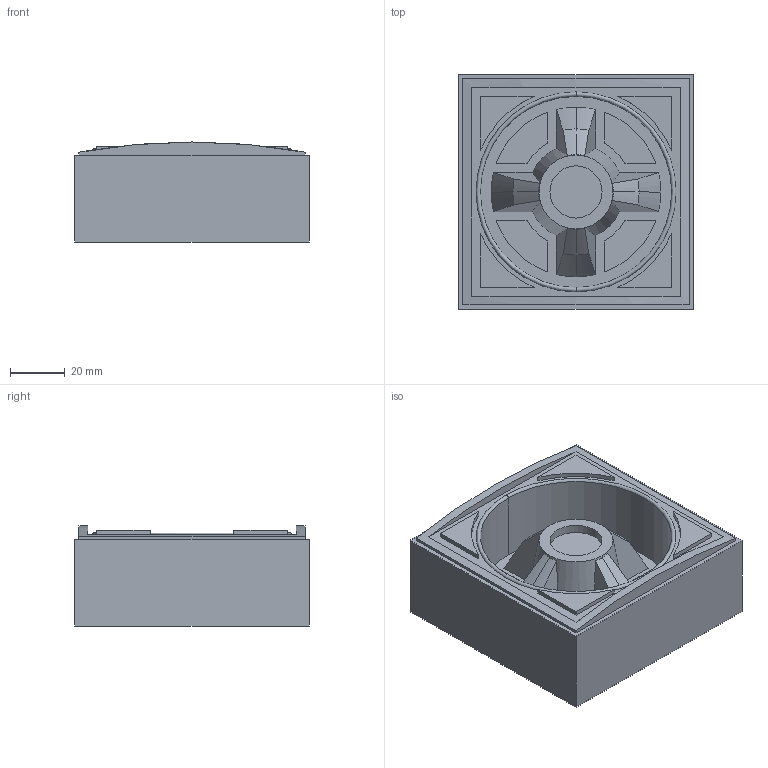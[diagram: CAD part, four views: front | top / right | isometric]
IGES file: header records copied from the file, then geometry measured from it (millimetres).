
Start section: 3D InterOp IGES (Version 21 0 3), Spatial Corp. Copyright (c) 1999-2007.
Global section: file name: CSR POWER COUPLER ASSY 20140325.igs; native system: Spatial Corp.; preprocessor: 3D InterOp GENERIC/IGES 3.0; author: Noname; organization: Noname; date: 20140501.114018; units: inch
Bounding box: 85.72 x 85.72 x 36.52 mm (x, y, z)
Surface area: 42684.2 mm2 (no closed solid volume)
Topology: 0 solids, 0 shells, 105 faces, 426 edges, 426 vertices
Faces by surface type: extrusion 60, revolution 45
